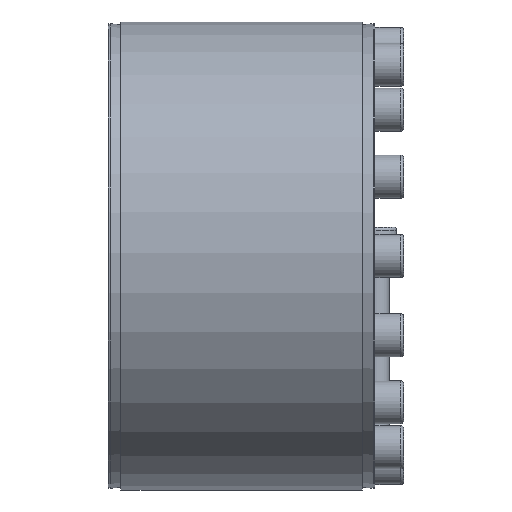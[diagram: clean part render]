
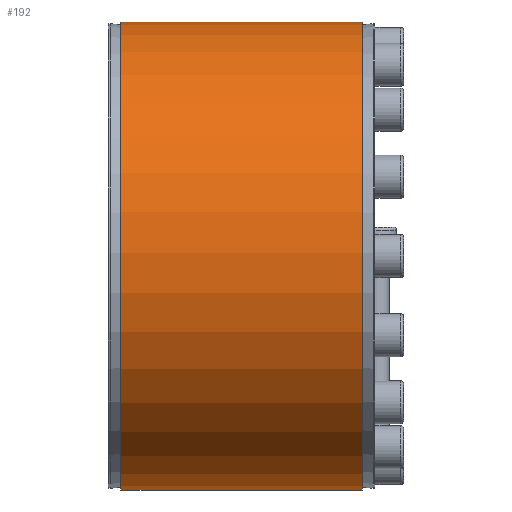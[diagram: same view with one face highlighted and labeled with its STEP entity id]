
A CAD part, left-side view. The second image highlights one B-rep face of the part: STEP entity #192.
In plain terms, the highlighted cylindrical face has radius 130 mm (diameter 260 mm), a partial arc.
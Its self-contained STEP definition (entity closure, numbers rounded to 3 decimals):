
#192 = ADVANCED_FACE( '', ( #501 ), #502, .T. );
#501 = FACE_OUTER_BOUND( '', #895, .T. );
#502 = CYLINDRICAL_SURFACE( '', #896, 130. );
#895 = EDGE_LOOP( '', ( #1452, #1453, #1454, #1455 ) );
#896 = AXIS2_PLACEMENT_3D( '', #1456, #1457, #1458 );
#1452 = ORIENTED_EDGE( '', *, *, #1748, .F. );
#1453 = ORIENTED_EDGE( '', *, *, #1812, .T. );
#1454 = ORIENTED_EDGE( '', *, *, #1911, .F. );
#1455 = ORIENTED_EDGE( '', *, *, #1861, .F. );
#1456 = CARTESIAN_POINT( '', ( 0., -60., 0. ) );
#1457 = DIRECTION( '', ( 0., 1., 0. ) );
#1458 = DIRECTION( '', ( 0., 0., -1. ) );
#1748 = EDGE_CURVE( '', #2037, #2039, #2040, .T. );
#1812 = EDGE_CURVE( '', #2037, #2143, #2145, .T. );
#1861 = EDGE_CURVE( '', #2039, #2231, #2232, .T. );
#1911 = EDGE_CURVE( '', #2231, #2143, #2312, .F. );
#2037 = VERTEX_POINT( '', #2548 );
#2039 = VERTEX_POINT( '', #2551 );
#2040 = LINE( '', #2552, #2553 );
#2143 = VERTEX_POINT( '', #2667 );
#2145 = CIRCLE( '', #2670, 130. );
#2231 = VERTEX_POINT( '', #2761 );
#2232 = CIRCLE( '', #2762, 130. );
#2312 = LINE( '', #2848, #2849 );
#2548 = CARTESIAN_POINT( '', ( 23.397, 141., 127.877 ) );
#2551 = CARTESIAN_POINT( '', ( 23.397, 7., 127.877 ) );
#2552 = CARTESIAN_POINT( '', ( 23.397, -60., 127.877 ) );
#2553 = VECTOR( '', #2955, 1000. );
#2667 = CARTESIAN_POINT( '', ( 27.32, 141., 127.097 ) );
#2670 = AXIS2_PLACEMENT_3D( '', #3070, #3071, #3072 );
#2761 = CARTESIAN_POINT( '', ( 27.32, 7., 127.097 ) );
#2762 = AXIS2_PLACEMENT_3D( '', #3186, #3187, #3188 );
#2848 = CARTESIAN_POINT( '', ( 27.32, -60., 127.097 ) );
#2849 = VECTOR( '', #3282, 1000. );
#2955 = DIRECTION( '', ( 0., -1., 0. ) );
#3070 = CARTESIAN_POINT( '', ( 0., 141., 0. ) );
#3071 = DIRECTION( '', ( 0., -1., 0. ) );
#3072 = DIRECTION( '', ( 0., 0., -1. ) );
#3186 = CARTESIAN_POINT( '', ( 0., 7., 0. ) );
#3187 = DIRECTION( '', ( 0., -1., 0. ) );
#3188 = DIRECTION( '', ( 0., 0., -1. ) );
#3282 = DIRECTION( '', ( 0., -1., 0. ) );
